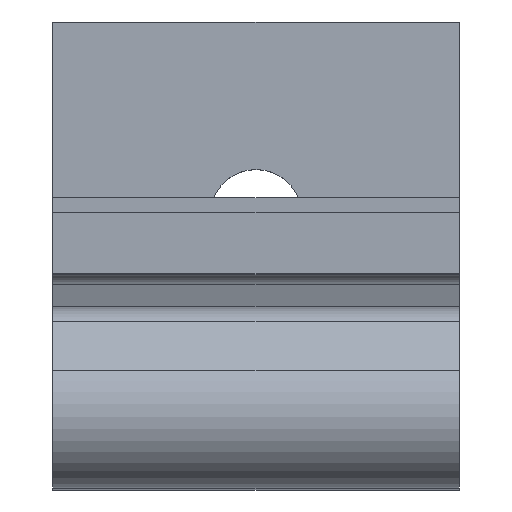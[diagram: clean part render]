
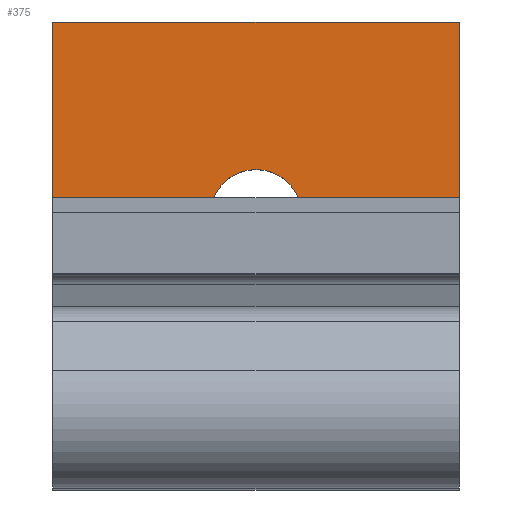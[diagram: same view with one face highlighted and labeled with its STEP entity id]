
A CAD part, top view. The second image highlights one B-rep face of the part: STEP entity #375.
In plain terms, the highlighted planar face has unit normal (0, 0, 1).
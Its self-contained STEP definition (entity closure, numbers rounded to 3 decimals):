
#13 = LINE ( 'NONE', #753, #221 ) ;
#35 = DIRECTION ( 'NONE',  ( 1., 0., 0. ) ) ;
#108 = CARTESIAN_POINT ( 'NONE',  ( 49.5, 27., 6. ) ) ;
#127 = EDGE_LOOP ( 'NONE', ( #800, #156, #645, #850 ) ) ;
#153 = DIRECTION ( 'NONE',  ( 0., 1., 0. ) ) ;
#154 = AXIS2_PLACEMENT_3D ( 'NONE', #180, #345, #921 ) ;
#156 = ORIENTED_EDGE ( 'NONE', *, *, #328, .T. ) ;
#172 = CIRCLE ( 'NONE', #615, 4.5 ) ;
#180 = CARTESIAN_POINT ( 'NONE',  ( 54., 27., 6. ) ) ;
#192 = CARTESIAN_POINT ( 'NONE',  ( 74., 7.5, 6. ) ) ;
#200 = DIRECTION ( 'NONE',  ( 0., 1., 0. ) ) ;
#201 = VERTEX_POINT ( 'NONE', #108 ) ;
#221 = VECTOR ( 'NONE', #453, 1000. ) ;
#251 = VECTOR ( 'NONE', #300, 1000. ) ;
#252 = CIRCLE ( 'NONE', #154, 4.5 ) ;
#291 = EDGE_CURVE ( 'NONE', #316, #201, #252, .T. ) ;
#297 = CARTESIAN_POINT ( 'NONE',  ( 58.5, 27., 6. ) ) ;
#300 = DIRECTION ( 'NONE',  ( 0., -1., 0. ) ) ;
#313 = EDGE_CURVE ( 'NONE', #973, #785, #13, .T. ) ;
#316 = VERTEX_POINT ( 'NONE', #297 ) ;
#328 = EDGE_CURVE ( 'NONE', #785, #912, #1049, .T. ) ;
#345 = DIRECTION ( 'NONE',  ( 0., 0., -1. ) ) ;
#360 = DIRECTION ( 'NONE',  ( 1., 0., 0. ) ) ;
#375 = ADVANCED_FACE ( 'NONE', ( #884, #509 ), #616, .F. ) ;
#408 = LINE ( 'NONE', #782, #251 ) ;
#428 = EDGE_CURVE ( 'NONE', #973, #661, #1030, .T. ) ;
#453 = DIRECTION ( 'NONE',  ( 0., -1., 0. ) ) ;
#509 = FACE_OUTER_BOUND ( 'NONE', #127, .T. ) ;
#512 = CARTESIAN_POINT ( 'NONE',  ( 34., 46., 6. ) ) ;
#529 = CARTESIAN_POINT ( 'NONE',  ( 74., 46., 6. ) ) ;
#539 = EDGE_CURVE ( 'NONE', #201, #316, #172, .T. ) ;
#560 = AXIS2_PLACEMENT_3D ( 'NONE', #762, #858, #200 ) ;
#615 = AXIS2_PLACEMENT_3D ( 'NONE', #717, #808, #153 ) ;
#616 = PLANE ( 'NONE',  #560 ) ;
#645 = ORIENTED_EDGE ( 'NONE', *, *, #1040, .F. ) ;
#650 = ORIENTED_EDGE ( 'NONE', *, *, #291, .T. ) ;
#661 = VERTEX_POINT ( 'NONE', #976 ) ;
#717 = CARTESIAN_POINT ( 'NONE',  ( 54., 27., 6. ) ) ;
#742 = EDGE_LOOP ( 'NONE', ( #775, #650 ) ) ;
#753 = CARTESIAN_POINT ( 'NONE',  ( 34., 46., 6. ) ) ;
#762 = CARTESIAN_POINT ( 'NONE',  ( 74., 46., 6. ) ) ;
#775 = ORIENTED_EDGE ( 'NONE', *, *, #539, .T. ) ;
#782 = CARTESIAN_POINT ( 'NONE',  ( 74., 46., 6. ) ) ;
#785 = VERTEX_POINT ( 'NONE', #983 ) ;
#800 = ORIENTED_EDGE ( 'NONE', *, *, #313, .T. ) ;
#808 = DIRECTION ( 'NONE',  ( 0., 0., -1. ) ) ;
#850 = ORIENTED_EDGE ( 'NONE', *, *, #428, .F. ) ;
#858 = DIRECTION ( 'NONE',  ( 0., 0., -1. ) ) ;
#859 = CARTESIAN_POINT ( 'NONE',  ( 74., 7.5, 6. ) ) ;
#870 = VECTOR ( 'NONE', #35, 1000. ) ;
#884 = FACE_BOUND ( 'NONE', #742, .T. ) ;
#912 = VERTEX_POINT ( 'NONE', #192 ) ;
#921 = DIRECTION ( 'NONE',  ( 0., 1., 0. ) ) ;
#973 = VERTEX_POINT ( 'NONE', #512 ) ;
#976 = CARTESIAN_POINT ( 'NONE',  ( 74., 46., 6. ) ) ;
#983 = CARTESIAN_POINT ( 'NONE',  ( 34., 7.5, 6. ) ) ;
#1023 = VECTOR ( 'NONE', #360, 1000. ) ;
#1030 = LINE ( 'NONE', #529, #1023 ) ;
#1040 = EDGE_CURVE ( 'NONE', #661, #912, #408, .T. ) ;
#1049 = LINE ( 'NONE', #859, #870 ) ;
